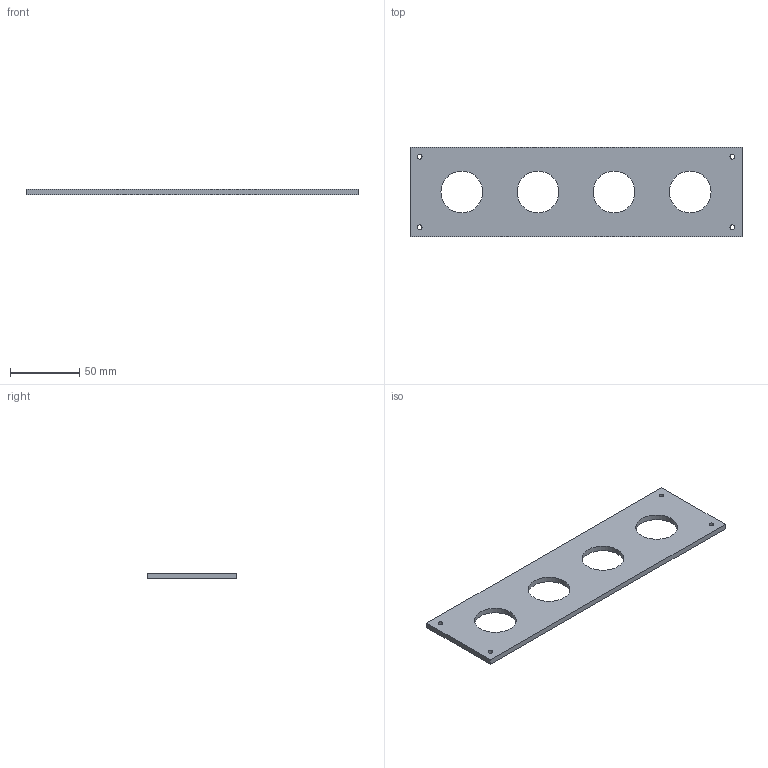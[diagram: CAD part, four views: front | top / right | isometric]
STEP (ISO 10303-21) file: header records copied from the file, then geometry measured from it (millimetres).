
FILE_DESCRIPTION(('Open CASCADE Model'),'2;1');
FILE_NAME('Open CASCADE Shape Model','2026-10-21T16:54:03',('Author'),( 'Open CASCADE'),'Open CASCADE STEP processor 7.9','Open CASCADE 7.9' ,'Unknown');
FILE_SCHEMA(('AUTOMOTIVE_DESIGN { 1 0 10303 214 1 1 1 1 }'));
Length unit declared in the file: millimetre
Products named in the file (1): Open CASCADE STEP translator 7.9 60
Bounding box: 240 x 65 x 4 mm (x, y, z)
Volume: 50793.7 mm3; surface area: 29525.8 mm2
Topology: 1 solids, 1 shells, 14 faces, 36 edges, 24 vertices
Faces by surface type: cylinder 8, plane 6
Full cylindrical faces by diameter (mm): 3.4 x4, 30.2 x4
Entity records: 994 total; most frequent: CARTESIAN_POINT 243, DIRECTION 138, LINE 76, VECTOR 76, ORIENTED_EDGE 72, PCURVE 72, DEFINITIONAL_REPRESENTATION 72, EDGE_CURVE 36
